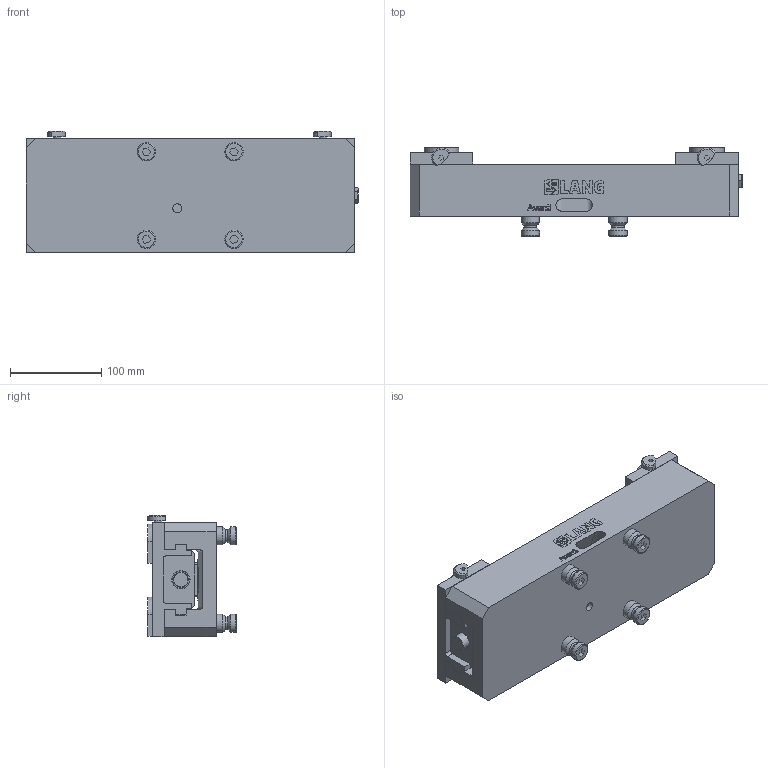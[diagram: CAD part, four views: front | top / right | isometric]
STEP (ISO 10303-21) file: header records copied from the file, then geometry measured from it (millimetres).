
FILE_DESCRIPTION (( 'STEP AP214' ), '1' );
FILE_NAME ('44355-125.STEP', '2020-02-13T14:30:42', ( '' ), ( '' ), 'SwSTEP 2.0', 'SolidWorks 2019', '' );
FILE_SCHEMA (( 'AUTOMOTIVE_DESIGN' ));
Length unit declared in the file: millimetre
Products named in the file (3): 44251-125; Avanti_44355-125; 44355-125
Assembly tree (3 placements, depth 2):
  44355-125
    Avanti_44355-125
    44251-125  x2
Bounding box: 364 x 97.01 x 133.12 mm (x, y, z)
Volume: 2165010.3 mm3; surface area: 302973.6 mm2
Topology: 38 solids, 38 shells, 756 faces, 1900 edges, 1247 vertices
Faces by surface type: plane 565, bspline 98, cylinder 60, cone 21, torus 12
Full cylindrical faces by diameter (mm): 8.5 x4, 9 x2, 10 x1, 16 x8, 16.5 x1, 20 x12
Entity records: 30527 total; most frequent: CARTESIAN_POINT 6815, ORIENTED_EDGE 3336, DIRECTION 2750, EDGE_CURVE 1668, LINE 1342, VECTOR 1342, VERTEX_POINT 1129, EDGE_LOOP 789
